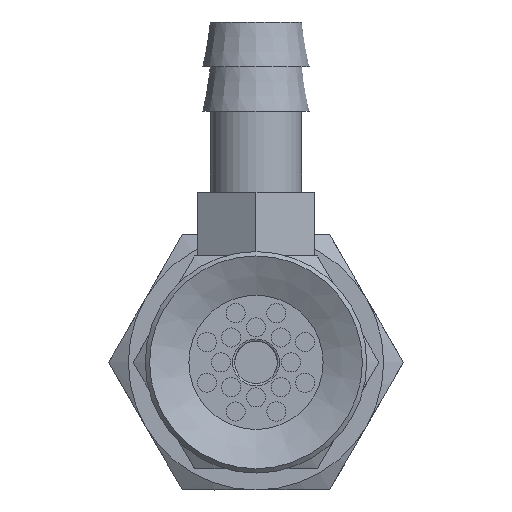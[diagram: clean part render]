
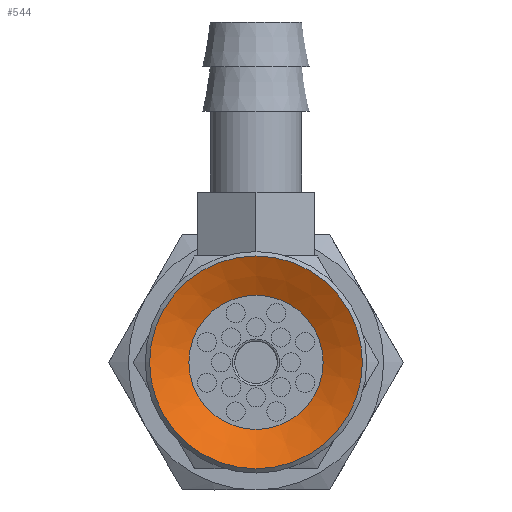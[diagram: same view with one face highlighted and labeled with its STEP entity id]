
A CAD part, front view. The second image highlights one B-rep face of the part: STEP entity #544.
In plain terms, the highlighted conical face has half-angle 64 degrees and reference radius 5 mm.
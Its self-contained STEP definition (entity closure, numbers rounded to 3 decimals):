
#544=ADVANCED_FACE('',(#846,#847),#848,.F.);
#846=FACE_BOUND('',#1259,.T.);
#847=FACE_OUTER_BOUND('',#1260,.T.);
#848=CONICAL_SURFACE('',#1261,5.0,1.117);
#1259=EDGE_LOOP('',(#2041));
#1260=EDGE_LOOP('',(#2042));
#1261=AXIS2_PLACEMENT_3D('',#2043,#2044,#2045);
#2041=ORIENTED_EDGE('',*,*,#2558,.T.);
#2042=ORIENTED_EDGE('',*,*,#2559,.F.);
#2043=CARTESIAN_POINT('',(0.0,0.,0.));
#2044=DIRECTION('',(0.0,0.,-1.0));
#2045=DIRECTION('',(0.0,1.0,0.));
#2558=EDGE_CURVE('',#2922,#2922,#2923,.T.);
#2559=EDGE_CURVE('',#2924,#2924,#2925,.T.);
#2922=VERTEX_POINT('',#3730);
#2923=CIRCLE('',#3731,3.155);
#2924=VERTEX_POINT('',#3732);
#2925=CIRCLE('',#3733,5.0);
#3730=CARTESIAN_POINT('',(0.0,-3.155,0.9));
#3731=AXIS2_PLACEMENT_3D('',#4152,#4153,#4154);
#3732=CARTESIAN_POINT('',(0.0,-5.0,0.));
#3733=AXIS2_PLACEMENT_3D('',#4155,#4156,#4157);
#4152=CARTESIAN_POINT('',(0.0,0.,0.9));
#4153=DIRECTION('',(0.0,0.,1.0));
#4154=DIRECTION('',(0.0,-1.0,0.));
#4155=CARTESIAN_POINT('',(0.0,0.,0.));
#4156=DIRECTION('',(0.0,0.,1.0));
#4157=DIRECTION('',(0.0,-1.0,0.));
